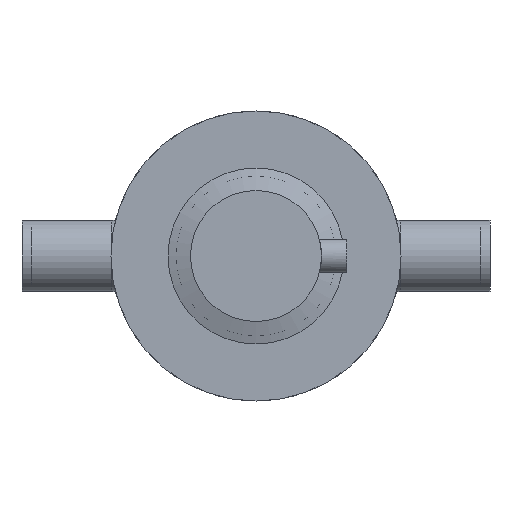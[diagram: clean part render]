
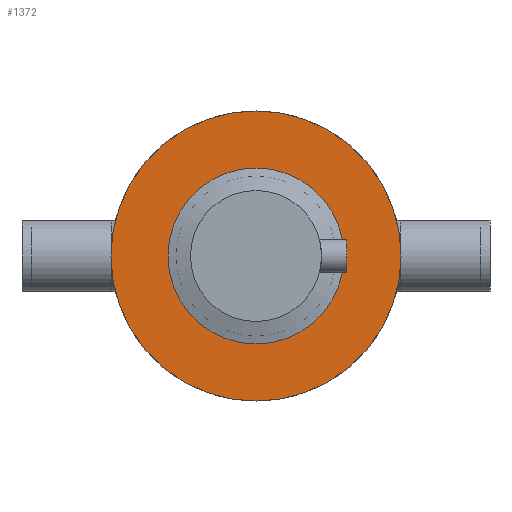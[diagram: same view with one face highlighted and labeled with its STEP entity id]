
A CAD part, front view. The second image highlights one B-rep face of the part: STEP entity #1372.
In plain terms, the highlighted planar face has unit normal (0, -1, 0).
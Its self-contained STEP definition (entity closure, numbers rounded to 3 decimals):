
#100=FACE_BOUND('',#327,.T.);
#130=PLANE('',#1647);
#211=FACE_OUTER_BOUND('',#326,.T.);
#326=EDGE_LOOP('',(#1168,#1169));
#327=EDGE_LOOP('',(#1170,#1171));
#537=CIRCLE('',#1645,42.5);
#538=CIRCLE('',#1646,42.5);
#539=CIRCLE('',#1648,77.5);
#540=CIRCLE('',#1649,77.5);
#677=VERTEX_POINT('',#2611);
#678=VERTEX_POINT('',#2613);
#679=VERTEX_POINT('',#2617);
#680=VERTEX_POINT('',#2618);
#849=EDGE_CURVE('',#678,#677,#537,.T.);
#850=EDGE_CURVE('',#677,#678,#538,.T.);
#851=EDGE_CURVE('',#679,#680,#539,.T.);
#852=EDGE_CURVE('',#680,#679,#540,.T.);
#1168=ORIENTED_EDGE('',*,*,#851,.F.);
#1169=ORIENTED_EDGE('',*,*,#852,.F.);
#1170=ORIENTED_EDGE('',*,*,#849,.T.);
#1171=ORIENTED_EDGE('',*,*,#850,.T.);
#1372=ADVANCED_FACE('',(#211,#100),#130,.F.);
#1645=AXIS2_PLACEMENT_3D('',#2614,#2080,#2081);
#1646=AXIS2_PLACEMENT_3D('',#2615,#2082,#2083);
#1647=AXIS2_PLACEMENT_3D('',#2616,#2084,#2085);
#1648=AXIS2_PLACEMENT_3D('',#2619,#2086,#2087);
#1649=AXIS2_PLACEMENT_3D('',#2620,#2088,#2089);
#2080=DIRECTION('center_axis',(0.,1.,0.));
#2081=DIRECTION('ref_axis',(1.,0.,0.));
#2082=DIRECTION('center_axis',(0.,1.,0.));
#2083=DIRECTION('ref_axis',(1.,0.,0.));
#2084=DIRECTION('center_axis',(0.,1.,0.));
#2085=DIRECTION('ref_axis',(0.,0.,1.));
#2086=DIRECTION('center_axis',(0.,1.,0.));
#2087=DIRECTION('ref_axis',(-1.,0.,0.));
#2088=DIRECTION('center_axis',(0.,1.,0.));
#2089=DIRECTION('ref_axis',(-1.,0.,0.));
#2611=CARTESIAN_POINT('',(42.5,-14.9,0.));
#2613=CARTESIAN_POINT('',(-42.5,-14.9,0.));
#2614=CARTESIAN_POINT('Origin',(0.,-14.9,0.));
#2615=CARTESIAN_POINT('Origin',(0.,-14.9,0.));
#2616=CARTESIAN_POINT('Origin',(-42.5,-14.9,0.));
#2617=CARTESIAN_POINT('',(-77.5,-14.9,0.));
#2618=CARTESIAN_POINT('',(77.5,-14.9,0.));
#2619=CARTESIAN_POINT('Origin',(0.,-14.9,0.));
#2620=CARTESIAN_POINT('Origin',(0.,-14.9,0.));
